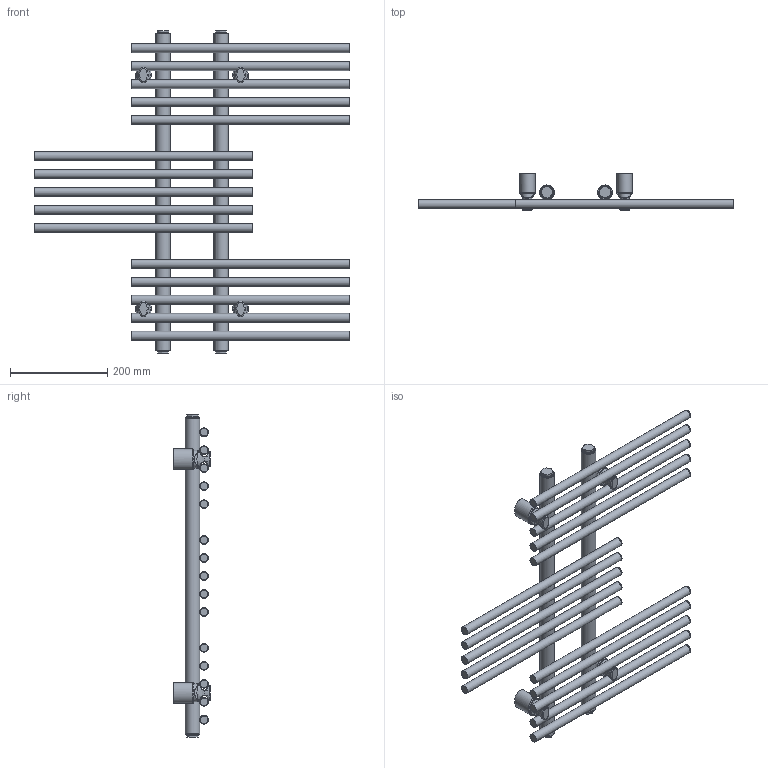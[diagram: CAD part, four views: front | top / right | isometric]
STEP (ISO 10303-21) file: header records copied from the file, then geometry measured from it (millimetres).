
FILE_DESCRIPTION(/* description */ (''),/* implementation_level */ '2;1');
FILE_NAME(/* name */ 'C:\Grzejniki\13DLUXRAD\łazienkowe\NEPTUN\NEPTUN 652x650.iam.stp',/* time_stamp */ '2016-06-28T17:50:37+02:00',/* author */ ('m.szydziak'),/* organization */ (''),/* preprocessor_version */ 'ST-DEVELOPER v16.5',/* originating_system */ 'Autodesk Inventor 2017',/* authorisation */ '');
FILE_SCHEMA (('AUTOMOTIVE_DESIGN { 1 0 10303 214 3 1 1 }'));
Length unit declared in the file: millimetre
Products named in the file (9): NEPTUN 652x650; fi30x1,5x652; zaślepka fi30 G0,5inch; korek; fi18x1,2x450; mocowanie pamela; 1; 2; 3
Assembly tree (32 placements, depth 3):
  NEPTUN 652x650
    fi30x1,5x652  x2
    fi18x1,2x450  x15
    zaślepka fi30 G0,5inch  x4
    korek  x4
    mocowanie pamela  x4
      1
      2
      3
Bounding box: 650 x 76 x 664 mm (x, y, z)
Volume: 850742.3 mm3; surface area: 1044101.5 mm2
Topology: 37 solids, 52 shells, 344 faces, 787 edges, 555 vertices
Faces by surface type: plane 188, cylinder 88, bspline 68
Full cylindrical faces by diameter (mm): 7 x30, 15.6 x15, 18 x15, 18.631 x8, 24 x4, 27 x6, 30 x2
Entity records: 4700 total; most frequent: CARTESIAN_POINT 2539, DIRECTION 362, ORIENTED_EDGE 352, EDGE_CURVE 176, AXIS2_PLACEMENT_3D 158, EDGE_LOOP 146, VERTEX_POINT 140, FACE_OUTER_BOUND 81
